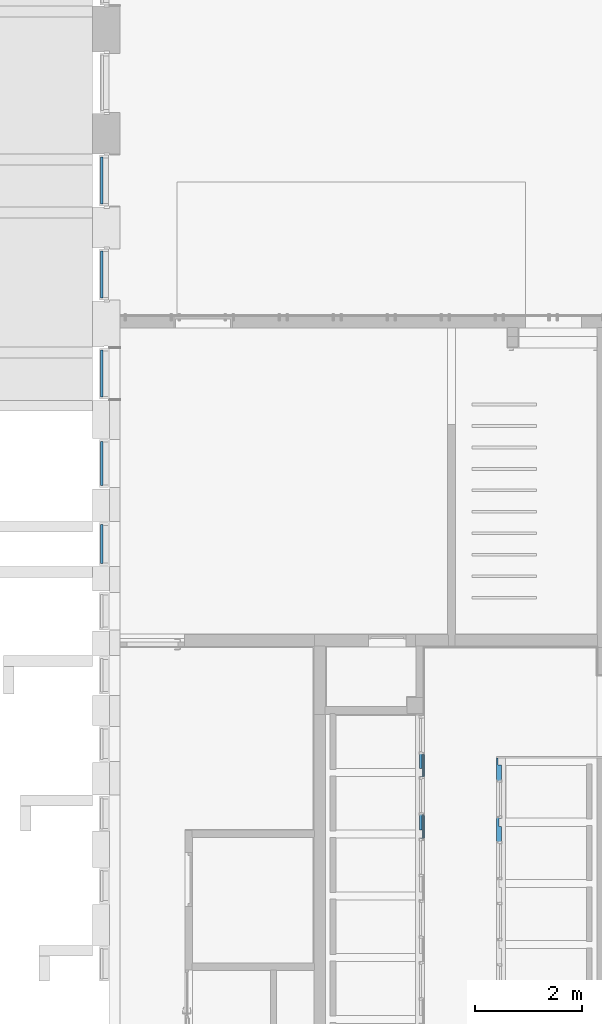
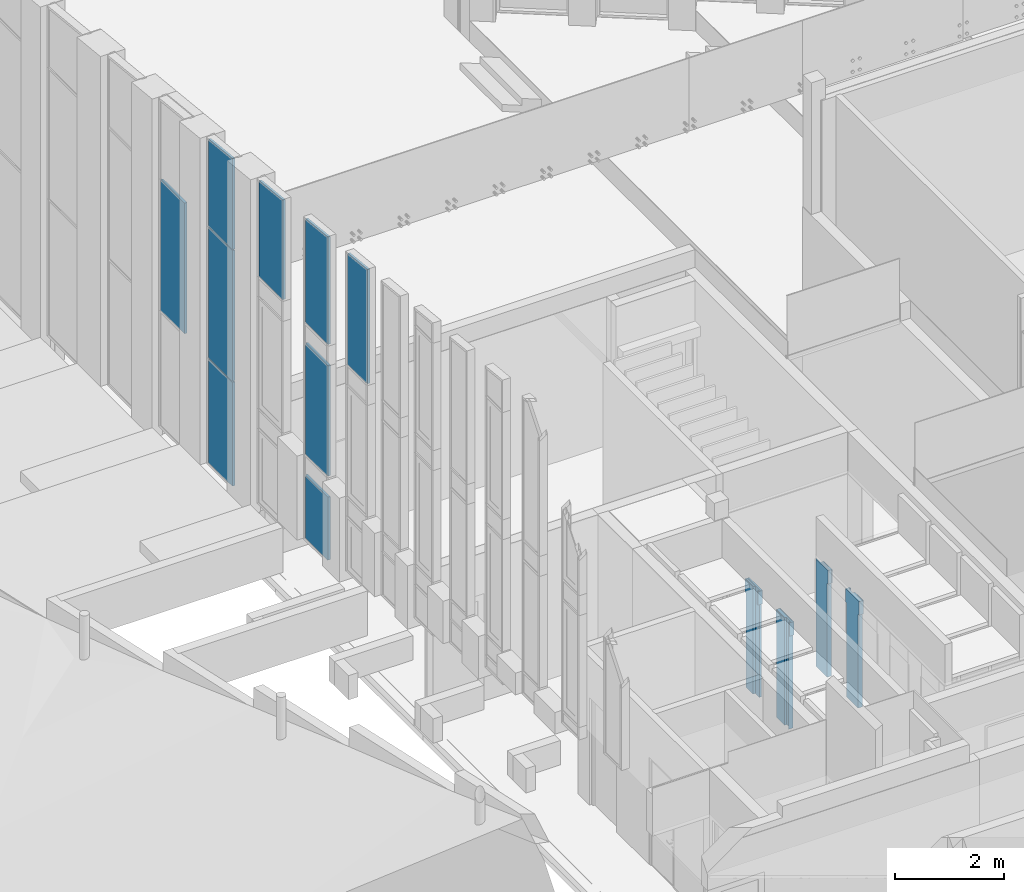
# One storey, part 96 of 246: 13 plates, 7 elements without a shape of their own.
"""IFC2X3 building model written with IfcOpenShell, lengths in millimetres."""

from ifc_helpers import new_model, entity, si_unit, converted_unit, derived_unit, money_unit, direction, frame, origin_with_axes, place, context, subcontext, project, spatial, faceted_brep, material, material_list, type_object, element, aggregate, save


model = new_model("IFC2X3")

# Units and contexts
model_context = context("Model", 3, precision=0.01, world=origin_with_axes(), true_north=direction((0.0, 1.0)))
body_context = subcontext(model_context, "Body", "Model", "MODEL_VIEW")
ifc_project = project(units=[si_unit("LENGTHUNIT", "METRE", prefix="MILLI"), si_unit("AREAUNIT", "SQUARE_METRE"), si_unit("VOLUMEUNIT", "CUBIC_METRE"), converted_unit("PLANEANGLEUNIT", "DEGREE", entity("IfcPlaneAngleMeasure", 0.0174532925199), si_unit("PLANEANGLEUNIT", "RADIAN"), dimensions=[0, 0, 0, 0, 0, 0, 0]), si_unit("SOLIDANGLEUNIT", "STERADIAN"), money_unit("EUR"), converted_unit("TIMEUNIT", "Year", entity("IfcTimeMeasure", 31556926.0), si_unit("TIMEUNIT", "SECOND"), dimensions=[0, 0, 1, 0, 0, 0, 0]), si_unit("MASSUNIT", "GRAM", prefix="KILO"), si_unit("THERMODYNAMICTEMPERATUREUNIT", "DEGREE_CELSIUS"), si_unit("LUMINOUSINTENSITYUNIT", "LUMEN"), si_unit("ENERGYUNIT", "JOULE", prefix="MEGA"), derived_unit("THERMALCONDUCTANCEUNIT", [(si_unit("POWERUNIT", "WATT"), 1), (si_unit("LENGTHUNIT", "METRE"), -1), (si_unit("THERMODYNAMICTEMPERATUREUNIT", "KELVIN"), -1)]), derived_unit("SPECIFICHEATCAPACITYUNIT", [(si_unit("ENERGYUNIT", "JOULE"), 1), (si_unit("MASSUNIT", "GRAM", prefix="KILO"), -1), (si_unit("THERMODYNAMICTEMPERATUREUNIT", "KELVIN"), -1)]), derived_unit("MASSDENSITYUNIT", [(si_unit("MASSUNIT", "GRAM", prefix="KILO"), 1), (si_unit("VOLUMEUNIT", "CUBIC_METRE"), -1)])], contexts=[model_context])

# Site, building, storey
site_placement = place(None, origin_with_axes())
site = spatial("IfcSite", under=ifc_project, at=site_placement, Name="L.Koidula tn 11b", CompositionType="ELEMENT")
building_placement = place(site_placement, origin_with_axes())
building = spatial("IfcBuilding", under=site, at=building_placement, Name="Rakvere Riigigümnaasium", CompositionType="ELEMENT")
storey_placement = place(building_placement, origin_with_axes())
storey = spatial("IfcBuildingStorey", under=building, at=storey_placement, Name="1.korrus 0,00", CompositionType="ELEMENT", Elevation=0.0)

# Curtain wall, plate
curtain_wall_type = type_object("IfcCurtainWallType", Name="Curtain Wall Type", PredefinedType="NOTDEFINED")
curtain_wall_1_placement = place(storey_placement, frame((35156.0871538, 34035.34119, 1144.99990202), z_axis=(0.0, 0.0, 1.0), x_axis=(1.0, 0.0, 0.0)))
curtain_wall_1 = element("IfcCurtainWall", 1, at=curtain_wall_1_placement, inside=storey, type_object=curtain_wall_type, Name="KLF-03-05")
ifc_material_1 = material(Name="Klaaspakett 3x")
plate_type_1 = type_object("IfcPlateType", Name="Distinct Panel 876 x 2921 x 54", PredefinedType="CURTAIN_PANEL")
plate_1_placement = place(curtain_wall_1_placement, frame((0.0, 0.0, 4072.50013945), z_axis=(0.0, 0.0, 1.0), x_axis=(0.0, 1.0, 0.0)))
plate_1 = element("IfcPlate", 2, at=plate_1_placement, type_object=plate_type_1, material=ifc_material_1, Name="KLF-03-05-Klaasid", ObjectType="CURTAIN_PANEL", context=body_context, shape_type="Brep", body=[
    faceted_brep([(-438.000075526, -27.0, 1460.50001848), (438.00002379, -27.0, 1460.50001848), (438.00002379, 27.0, 1460.50001848), (-438.000075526, 27.0, 1460.50001848), (-438.000031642, -27.0, -1460.50001848), (438.00002379, -27.0, -1460.50001848), (438.00002379, 27.0, -1460.50001848), (-438.000031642, 27.0, -1460.50001848)], [[[0, 1, 2, 3]], [[0, 4, 5, 1]], [[1, 5, 6, 2]], [[3, 2, 6, 7]], [[4, 0, 3, 7]], [[5, 4, 7, 6]]]),
])
aggregate(curtain_wall_1, [plate_1])

# Curtain wall, plates
curtain_wall_2_placement = place(storey_placement, frame((35156.0871538, 32285.4558039, 1374.99993164), z_axis=(0.0, 0.0, 1.0), x_axis=(1.0, 0.0, 0.0)))
curtain_wall_2 = element("IfcCurtainWall", 3, at=curtain_wall_2_placement, inside=storey, type_object=curtain_wall_type, Name="KLF-03-06")
plate_2_placement = place(curtain_wall_2_placement, frame((0.0, -4.72708947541e-05, 3842.50014685), z_axis=(0.0, 0.0, 1.0), x_axis=(0.0, 1.0, 0.0)))
plate_2 = element("IfcPlate", 4, at=plate_2_placement, type_object=plate_type_1, material=ifc_material_1, Name="KLF-03-06-Klaasid", ObjectType="CURTAIN_PANEL", context=body_context, shape_type="Brep", body=[
    faceted_brep([(-437.999813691, -27.0, 1460.50001848), (437.999846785, -27.0, 1460.50001848), (437.999846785, 27.0, 1460.50001848), (-437.999813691, 27.0, 1460.50001848), (-437.999945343, -27.0, -1460.50001848), (437.999846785, -27.0, -1460.50001848), (437.999846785, 27.0, -1460.50001848), (-437.999945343, 27.0, -1460.50001848)], [[[0, 1, 2, 3]], [[0, 4, 5, 1]], [[1, 5, 6, 2]], [[3, 2, 6, 7]], [[4, 0, 3, 7]], [[5, 4, 7, 6]]]),
])
plate_type_2 = type_object("IfcPlateType", Name="Distinct Panel 876 x 1940 x 54", PredefinedType="CURTAIN_PANEL")
plate_3_placement = place(curtain_wall_2_placement, frame((0.0, 0.0, 6332.86607287), z_axis=(0.0, 0.0, 1.0), x_axis=(0.0, 1.0, 0.0)))
plate_3 = element("IfcPlate", 5, at=plate_3_placement, type_object=plate_type_2, material=ifc_material_1, Name="KLF-03-06-Klaasid", ObjectType="CURTAIN_PANEL", context=body_context, shape_type="Brep", body=[
    faceted_brep([(-437.999841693, -27.0, 1026.69774589), (437.999877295, -27.0, 934.626476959), (437.999877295, 27.0, 934.626476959), (-437.999841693, 27.0, 1026.69774589), (-437.999841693, -27.0, -1005.86593072), (437.999815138, -27.0, -1005.86593072), (437.999815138, 27.0, -1005.86593072), (-437.999841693, 27.0, -1005.86593072)], [[[0, 1, 2, 3]], [[0, 4, 5, 1]], [[1, 5, 6, 2]], [[3, 2, 6, 7]], [[4, 0, 3, 7]], [[5, 4, 7, 6]]]),
])
plate_type_3 = type_object("IfcPlateType", Name="Distinct Panel 876 x 2321 x 54", PredefinedType="CURTAIN_PANEL")
plate_4_placement = place(curtain_wall_2_placement, frame((0.0, -0.00010516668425, 1185.00007343), z_axis=(0.0, 0.0, 1.0), x_axis=(0.0, 1.0, 0.0)))
plate_4 = element("IfcPlate", 6, at=plate_4_placement, type_object=plate_type_3, material=ifc_material_1, Name="KLF-03-06-Klaasid", ObjectType="CURTAIN_PANEL", context=body_context, shape_type="Brep", body=[
    faceted_brep([(-437.999861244, -27.0, 1173.00008654), (437.999923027, -27.0, 1173.00008654), (437.999923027, 27.0, 1173.00008654), (-437.999861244, 27.0, 1173.00008654), (-437.999861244, -27.0, -1148.0000756), (437.999817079, -27.0, -1148.0000756), (437.999817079, 27.0, -1148.0000756), (-437.999861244, 27.0, -1148.0000756)], [[[0, 1, 2, 3]], [[0, 4, 5, 1]], [[1, 5, 6, 2]], [[3, 2, 6, 7]], [[4, 0, 3, 7]], [[5, 4, 7, 6]]]),
])
aggregate(curtain_wall_2, [plate_3, plate_2, plate_4])

# Curtain wall, plate
curtain_wall_3_placement = place(storey_placement, frame((35156.0871538, 30435.4555151, 1604.94683277), z_axis=(0.0, 0.0, 1.0), x_axis=(1.0, 0.0, 0.0)))
curtain_wall_3 = element("IfcCurtainWall", 7, at=curtain_wall_3_placement, inside=storey, type_object=curtain_wall_type, Name="KLF-04-01")
plate_type_4 = type_object("IfcPlateType", Name="Distinct Panel 876 x 2135 x 54", PredefinedType="CURTAIN_PANEL")
plate_5_placement = place(curtain_wall_3_placement, frame((0.0, -1.21958407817e-05, 6200.11400586), z_axis=(0.0, 0.0, 1.0), x_axis=(0.0, 1.0, 0.0)))
plate_5 = element("IfcPlate", 8, at=plate_5_placement, type_object=plate_type_4, material=ifc_material_1, Name="KLF-04-01-Klaasid", ObjectType="CURTAIN_PANEL", context=body_context, shape_type="Brep", body=[
    faceted_brep([(-438.000079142, -27.0, 1123.94575936), (438.000065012, -27.0, 1031.87454483), (438.000065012, 27.0, 1031.87454483), (-438.000079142, 27.0, 1123.94575936), (-438.000079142, -27.0, -1103.11392284), (438.000065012, -27.0, -1103.11392284), (438.000065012, 27.0, -1103.11392284), (-438.000079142, 27.0, -1103.11392284)], [[[0, 1, 2, 3]], [[0, 4, 5, 1]], [[1, 5, 6, 2]], [[3, 2, 6, 7]], [[4, 0, 3, 7]], [[5, 4, 7, 6]]]),
])
aggregate(curtain_wall_3, [plate_5])

# Curtain wall, plates
curtain_wall_4_placement = place(storey_placement, frame((35156.0871538, 28760.4555979, 1840.0), z_axis=(0.0, 0.0, 1.0), x_axis=(1.0, 0.0, 0.0)))
curtain_wall_4 = element("IfcCurtainWall", 9, at=curtain_wall_4_placement, inside=storey, type_object=curtain_wall_type, Name="KLF-04-02")
plate_type_5 = type_object("IfcPlateType", Name="Distinct Panel 826 x 2476 x 54", PredefinedType="CURTAIN_PANEL")
plate_6_placement = place(curtain_wall_4_placement, frame((0.0, -1.48800332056e-05, 3155.00005204), z_axis=(0.0, 0.0, 1.0), x_axis=(0.0, 1.0, 0.0)))
plate_6 = element("IfcPlate", 10, at=plate_6_placement, type_object=plate_type_5, material=ifc_material_1, Name="KLF-04-02-Klaasid", ObjectType="CURTAIN_PANEL", context=body_context, shape_type="Brep", body=[
    faceted_brep([(-412.999954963, -27.0, 1238.00000894), (412.999951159, -27.0, 1238.00000894), (412.999951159, 27.0, 1238.00000894), (-412.999954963, 27.0, 1238.00000894), (-412.999954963, -27.0, -1238.00000894), (412.999951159, -27.0, -1238.00000894), (412.999951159, 27.0, -1238.00000894), (-412.999954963, 27.0, -1238.00000894)], [[[0, 1, 2, 3]], [[0, 4, 5, 1]], [[1, 5, 6, 2]], [[3, 2, 6, 7]], [[4, 0, 3, 7]], [[5, 4, 7, 6]]]),
])
plate_type_6 = type_object("IfcPlateType", Name="Distinct Panel 826 x 1411 x 54", PredefinedType="CURTAIN_PANEL")
plate_7_placement = place(curtain_wall_4_placement, frame((0.0, -6.91300634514e-05, 730.00002602), z_axis=(0.0, 0.0, 1.0), x_axis=(0.0, 1.0, 0.0)))
plate_7 = element("IfcPlate", 11, at=plate_7_placement, type_object=plate_type_6, material=ifc_material_1, Name="KLF-04-02-Klaasid", ObjectType="CURTAIN_PANEL", context=body_context, shape_type="Brep", body=[
    faceted_brep([(-412.999993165, -27.0, 718.000029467), (413.000005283, -27.0, 718.000029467), (413.000005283, 27.0, 718.000029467), (-412.999993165, 27.0, 718.000029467), (-412.999993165, -27.0, -693.000034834), (413.000005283, -27.0, -693.000034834), (413.000005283, 27.0, -693.000034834), (-412.999993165, 27.0, -693.000034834)], [[[0, 1, 2, 3]], [[0, 4, 5, 1]], [[1, 5, 6, 2]], [[3, 2, 6, 7]], [[4, 0, 3, 7]], [[5, 4, 7, 6]]]),
])
plate_type_7 = type_object("IfcPlateType", Name="Distinct Panel 826 x 2314 x 54", PredefinedType="CURTAIN_PANEL")
plate_8_placement = place(curtain_wall_4_placement, frame((0.0, 0.000102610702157, 6053.11220973), z_axis=(0.0, 0.0, 1.0), x_axis=(0.0, 1.0, 0.0)))
plate_8 = element("IfcPlate", 12, at=plate_8_placement, type_object=plate_type_7, material=ifc_material_1, Name="KLF-04-02-Klaasid", ObjectType="CURTAIN_PANEL", context=body_context, shape_type="Brep", body=[
    faceted_brep([(-412.999665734, -27.0, 1209.31634915), (412.99983666, -27.0, 1122.50032517), (412.99983666, 27.0, 1122.50032517), (-412.999665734, 27.0, 1209.31634915), (-412.999994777, -27.0, -1191.11217342), (412.99983666, -27.0, -1191.11217342), (412.99983666, 27.0, -1191.11217342), (-412.999994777, 27.0, -1191.11217342)], [[[0, 1, 2, 3]], [[0, 4, 5, 1]], [[1, 5, 6, 2]], [[3, 2, 6, 7]], [[4, 0, 3, 7]], [[5, 4, 7, 6]]]),
])
aggregate(curtain_wall_4, [plate_6, plate_7, plate_8])

# Curtain wall, plate
curtain_wall_5_placement = place(storey_placement, frame((35156.0871538, 27260.4554897, 2070.0), z_axis=(0.0, 0.0, 1.0), x_axis=(1.0, 0.0, 0.0)))
curtain_wall_5 = element("IfcCurtainWall", 13, at=curtain_wall_5_placement, inside=storey, type_object=curtain_wall_type, Name="KLF-04-03")
plate_type_8 = type_object("IfcPlateType", Name="Distinct Panel 726 x 2477 x 54", PredefinedType="CURTAIN_PANEL")
plate_9_placement = place(curtain_wall_5_placement, frame((0.0, 4.11437994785e-06, 5901.94037312), z_axis=(0.0, 0.0, 1.0), x_axis=(0.0, 1.0, 0.0)))
plate_9 = element("IfcPlate", 14, at=plate_9_placement, type_object=plate_type_8, material=ifc_material_1, Name="KLF-04-03-Klaasid", ObjectType="CURTAIN_PANEL", context=body_context, shape_type="Brep", body=[
    faceted_brep([(-363.00000862, -27.0, 1282.88938991), (363.000032, -27.0, 1206.58365993), (363.000032, 27.0, 1206.58365993), (-363.00000862, 27.0, 1282.88938991), (-363.00000862, -27.0, -1269.94032137), (362.999993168, -27.0, -1269.94032137), (362.999993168, 27.0, -1269.94032137), (-363.00000862, 27.0, -1269.94032137)], [[[0, 1, 2, 3]], [[0, 4, 5, 1]], [[1, 5, 6, 2]], [[3, 2, 6, 7]], [[4, 0, 3, 7]], [[5, 4, 7, 6]]]),
])
aggregate(curtain_wall_5, [plate_9])

# Curtain wall, plates
curtain_wall_6_placement = place(storey_placement, frame((41170.0073165, 24038.4555472, 1.56205997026e-05), z_axis=(0.0, 0.0, 1.0), x_axis=(1.0, 0.0, 0.0)))
curtain_wall_6 = element("IfcCurtainWall", 15, at=curtain_wall_6_placement, inside=storey, type_object=curtain_wall_type, Name="SUS-01")
ifc_material_2 = material(Name="Klaasvill")
ifc_material_3 = material(Name="MDF")
ifc_material_4 = material(Name="Kipsplaat")
ifc_material_list = material_list([ifc_material_2, ifc_material_3, ifc_material_4])
plate_type_9 = type_object("IfcPlateType", Name="SA-Siseuksesüsteem-Paneel 480 x 300 x 0", PredefinedType="CURTAIN_PANEL")
plate_10_placement = place(curtain_wall_6_placement, frame((0.0, -907.000034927, 1499.99994772), z_axis=(0.0, 0.0, 1.0), x_axis=(0.0, 1.0, 0.0)))
plate_10 = element("IfcPlate", 16, at=plate_10_placement, type_object=plate_type_9, material=ifc_material_list, Name="Panel-SA-Siseuks-016", ObjectType="CURTAIN_PANEL", context=body_context, shape_type="Brep", body=[
    faceted_brep([(-71.0164757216, 45.000028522, 900.000036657), (-191.016475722, 45.000028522, 900.000036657), (-206.016475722, 45.000028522, 900.000036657), (-206.016475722, 79.0, 900.000036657), (-239.999997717, 79.0, 900.000025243), (-239.999997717, 42.0, 900.000025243), (240.0, 42.0, 900.000025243), (240.0, 79.0, 900.000025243), (-56.0164757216, 79.0, 900.000036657), (-56.0164757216, 45.000028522, 900.000036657), (-71.0164757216, 45.000028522, -1499.99996334), (-191.016475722, 45.000028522, -1499.99996334), (-205.999997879, 45.000028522, 600.000026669), (-206.016475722, 45.000028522, 600.000026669), (-205.999997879, 45.000028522, -1499.99996334), (-206.016475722, 79.0, 600.000026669), (-239.999997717, 79.0, 600.000026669), (-239.999997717, 42.0, 600.000026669), (206.000000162, 42.0, 600.000026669), (240.0, 42.0, 600.000026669), (-205.999997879, 42.0, 600.000026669), (-205.999997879, 42.0, -1499.99996334), (206.000000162, 42.0, -1499.99996334), (240.0, 79.0, 600.000026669), (206.000000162, 79.0, 600.000026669), (206.000000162, 79.0, -1499.99996334), (-56.0164757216, 79.0, -1499.99996334), (-56.0164757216, 45.000028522, -1499.99996334)], [[[0, 1, 2, 3, 4, 5, 6, 7, 8, 9]], [[10, 11, 1, 0]], [[12, 13, 2, 1, 11, 14]], [[13, 15, 3, 2]], [[16, 4, 3, 15]], [[5, 4, 16, 17]], [[18, 19, 6, 5, 17, 20, 21, 22]], [[19, 23, 7, 6]], [[24, 25, 26, 8, 7, 23]], [[26, 27, 9, 8]], [[27, 10, 0, 9]], [[11, 10, 27, 26, 25, 22, 21, 14]], [[16, 15, 13, 12, 20, 17]], [[21, 20, 12, 14]], [[18, 24, 23, 19]], [[22, 25, 24, 18]]]),
    faceted_brep([(240.0, 92.0, 900.000025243), (-56.0164757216, 92.0, 900.000036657), (-56.0164757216, 84.0, 900.000036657), (240.0, 84.0, 900.000025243), (206.000000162, 92.0, -1499.99996334), (-56.0164757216, 92.0, -1499.99996334), (240.0, 92.0, 600.000026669), (206.000000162, 92.0, 600.000026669), (-56.0164757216, 84.0, -1499.99996334), (206.000000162, 84.0, -1499.99996334), (206.000000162, 84.0, 600.000026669), (240.0, 84.0, 600.000026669)], [[[0, 1, 2, 3]], [[4, 5, 1, 0, 6, 7]], [[5, 8, 2, 1]], [[3, 2, 8, 9, 10, 11]], [[6, 0, 3, 11]], [[9, 8, 5, 4]], [[7, 6, 11, 10]], [[4, 7, 10, 9]]]),
    faceted_brep([(-239.999997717, 84.0, 600.000026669), (-206.016475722, 84.0, 600.000026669), (-206.016475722, 84.0, 900.000036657), (-239.999997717, 84.0, 900.000025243), (-239.999997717, 92.0, 600.000026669), (-206.016475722, 92.0, 600.000026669), (-206.016475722, 92.0, 900.000036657), (-239.999997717, 92.0, 900.000025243)], [[[0, 1, 2, 3]], [[4, 5, 1, 0]], [[5, 6, 2, 1]], [[3, 2, 6, 7]], [[7, 4, 0, 3]], [[7, 6, 5, 4]]]),
    faceted_brep([(-239.999997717, 0.0, 900.000025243), (240.0, 0.0, 900.000025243), (240.0, 10.0, 900.000025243), (-239.999997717, 10.0, 900.000025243), (-239.999997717, 0.0, 600.000026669), (-205.999997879, 0.0, 600.000026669), (-205.999997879, 0.0, -1499.99996334), (206.000000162, 0.0, -1499.99996334), (206.000000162, 0.0, 600.000026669), (240.0, 0.0, 600.000026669), (240.0, 10.0, 600.000026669), (206.000000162, 10.0, 600.000026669), (206.000000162, 10.0, -1499.99996334), (-205.999997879, 10.0, -1499.99996334), (-205.999997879, 10.0, 600.000026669), (-239.999997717, 10.0, 600.000026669)], [[[0, 1, 2, 3]], [[0, 4, 5, 6, 7, 8, 9, 1]], [[1, 9, 10, 2]], [[3, 2, 10, 11, 12, 13, 14, 15]], [[4, 0, 3, 15]], [[5, 4, 15, 14]], [[6, 5, 14, 13]], [[7, 6, 13, 12]], [[8, 7, 12, 11]], [[9, 8, 11, 10]]]),
    faceted_brep([(-239.999997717, 12.0, 900.000025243), (240.0, 12.0, 900.000025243), (240.0, 25.0, 900.000025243), (-239.999997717, 25.0, 900.000025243), (-239.999997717, 12.0, 600.000026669), (-205.999997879, 12.0, 600.000026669), (-205.999997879, 12.0, -1499.99996334), (206.000000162, 12.0, -1499.99996334), (206.000000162, 12.0, 600.000026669), (240.0, 12.0, 600.000026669), (240.0, 25.0, 600.000026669), (206.000000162, 25.0, 600.000026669), (206.000000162, 25.0, -1499.99996334), (-205.999997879, 25.0, -1499.99996334), (-205.999997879, 25.0, 600.000026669), (-239.999997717, 25.0, 600.000026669)], [[[0, 1, 2, 3]], [[0, 4, 5, 6, 7, 8, 9, 1]], [[1, 9, 10, 2]], [[3, 2, 10, 11, 12, 13, 14, 15]], [[4, 0, 3, 15]], [[5, 4, 15, 14]], [[6, 5, 14, 13]], [[7, 6, 13, 12]], [[8, 7, 12, 11]], [[9, 8, 11, 10]]]),
    faceted_brep([(-239.999997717, 25.0, 900.000025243), (240.0, 25.0, 900.000025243), (240.0, 38.0, 900.000025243), (-239.999997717, 38.0, 900.000025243), (-239.999997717, 25.0, 600.000026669), (-205.999997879, 25.0, 600.000026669), (-205.999997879, 25.0, -1499.99996334), (206.000000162, 25.0, -1499.99996334), (206.000000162, 25.0, 600.000026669), (240.0, 25.0, 600.000026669), (240.0, 38.0, 600.000026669), (206.000000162, 38.0, 600.000026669), (206.000000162, 38.0, -1499.99996334), (-205.999997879, 38.0, -1499.99996334), (-205.999997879, 38.0, 600.000026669), (-239.999997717, 38.0, 600.000026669)], [[[0, 1, 2, 3]], [[0, 4, 5, 6, 7, 8, 9, 1]], [[1, 9, 10, 2]], [[3, 2, 10, 11, 12, 13, 14, 15]], [[4, 0, 3, 15]], [[5, 4, 15, 14]], [[6, 5, 14, 13]], [[7, 6, 13, 12]], [[8, 7, 12, 11]], [[9, 8, 11, 10]]]),
])
plate_type_10 = type_object("IfcPlateType", Name="SA-Siseuksesüsteem-Paneel 500 x 300 x 0", PredefinedType="CURTAIN_PANEL")
plate_11_placement = place(curtain_wall_6_placement, frame((0.0, -2047.00003493, 1499.99994772), z_axis=(0.0, 0.0, 1.0), x_axis=(0.0, 1.0, 0.0)))
plate_11 = element("IfcPlate", 17, at=plate_11_placement, type_object=plate_type_10, material=ifc_material_list, Name="Panel-SA-Siseuks-017", ObjectType="CURTAIN_PANEL", context=body_context, shape_type="Brep", body=[
    faceted_brep([(-80.9366400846, 45.000028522, 900.000036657), (-200.936640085, 45.000028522, 900.000036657), (-215.936640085, 45.000028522, 900.000036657), (-215.936640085, 79.0, 900.000036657), (-249.999997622, 79.0, 900.000025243), (-249.999997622, 42.0, 900.000025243), (250.0, 42.0, 900.000025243), (250.0, 79.0, 900.000025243), (-65.9366400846, 79.0, 900.000036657), (-65.9366400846, 45.000028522, 900.000036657), (-80.9366400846, 45.000028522, -1499.99996334), (-200.936640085, 45.000028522, -1499.99996334), (-215.936640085, 45.000028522, -1499.99996334), (-215.936640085, 79.0, -1499.99996334), (-249.999997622, 79.0, 600.000026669), (-215.999997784, 79.0, -1499.99996334), (-215.999997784, 79.0, 600.000026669), (-249.999997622, 42.0, 600.000026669), (216.000000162, 42.0, 600.000026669), (250.0, 42.0, 600.000026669), (-215.999997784, 42.0, 600.000026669), (-215.999997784, 42.0, -1499.99996334), (216.000000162, 42.0, -1499.99996334), (250.0, 79.0, 600.000026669), (216.000000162, 79.0, 600.000026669), (216.000000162, 79.0, -1499.99996334), (-65.9366400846, 79.0, -1499.99996334), (-65.9366400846, 45.000028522, -1499.99996334)], [[[0, 1, 2, 3, 4, 5, 6, 7, 8, 9]], [[10, 11, 1, 0]], [[11, 12, 2, 1]], [[12, 13, 3, 2]], [[14, 4, 3, 13, 15, 16]], [[5, 4, 14, 17]], [[18, 19, 6, 5, 17, 20, 21, 22]], [[19, 23, 7, 6]], [[24, 25, 26, 8, 7, 23]], [[26, 27, 9, 8]], [[27, 10, 0, 9]], [[11, 10, 27, 26, 25, 22, 21, 15, 13, 12]], [[20, 16, 15, 21]], [[17, 14, 16, 20]], [[18, 24, 23, 19]], [[22, 25, 24, 18]]]),
    faceted_brep([(250.0, 92.0, 900.000025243), (-65.9366400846, 92.0, 900.000036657), (-65.9366400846, 84.0, 900.000036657), (250.0, 84.0, 900.000025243), (216.000000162, 92.0, -1499.99996334), (-65.9366400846, 92.0, -1499.99996334), (250.0, 92.0, 600.000026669), (216.000000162, 92.0, 600.000026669), (-65.9366400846, 84.0, -1499.99996334), (216.000000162, 84.0, -1499.99996334), (216.000000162, 84.0, 600.000026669), (250.0, 84.0, 600.000026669)], [[[0, 1, 2, 3]], [[4, 5, 1, 0, 6, 7]], [[5, 8, 2, 1]], [[3, 2, 8, 9, 10, 11]], [[6, 0, 3, 11]], [[9, 8, 5, 4]], [[7, 6, 11, 10]], [[4, 7, 10, 9]]]),
    faceted_brep([(-215.999997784, 84.0, -1499.99996334), (-215.936640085, 84.0, -1499.99996334), (-215.936640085, 84.0, 900.000036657), (-249.999997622, 84.0, 900.000025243), (-249.999997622, 84.0, 600.000026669), (-215.999997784, 84.0, 600.000026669), (-215.999997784, 92.0, -1499.99996334), (-215.936640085, 92.0, -1499.99996334), (-215.936640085, 92.0, 900.000036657), (-249.999997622, 92.0, 900.000025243), (-249.999997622, 92.0, 600.000026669), (-215.999997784, 92.0, 600.000026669)], [[[0, 1, 2, 3, 4, 5]], [[6, 7, 1, 0]], [[7, 8, 2, 1]], [[3, 2, 8, 9]], [[9, 10, 4, 3]], [[10, 11, 5, 4]], [[11, 6, 0, 5]], [[9, 8, 7, 6, 11, 10]]]),
    faceted_brep([(-249.999997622, 0.0, 900.000025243), (250.0, 0.0, 900.000025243), (250.0, 10.0, 900.000025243), (-249.999997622, 10.0, 900.000025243), (-249.999997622, 0.0, 600.000026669), (-215.999997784, 0.0, 600.000026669), (-215.999997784, 0.0, -1499.99996334), (216.000000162, 0.0, -1499.99996334), (216.000000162, 0.0, 600.000026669), (250.0, 0.0, 600.000026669), (250.0, 10.0, 600.000026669), (216.000000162, 10.0, 600.000026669), (216.000000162, 10.0, -1499.99996334), (-215.999997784, 10.0, -1499.99996334), (-215.999997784, 10.0, 600.000026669), (-249.999997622, 10.0, 600.000026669)], [[[0, 1, 2, 3]], [[0, 4, 5, 6, 7, 8, 9, 1]], [[1, 9, 10, 2]], [[3, 2, 10, 11, 12, 13, 14, 15]], [[4, 0, 3, 15]], [[5, 4, 15, 14]], [[6, 5, 14, 13]], [[7, 6, 13, 12]], [[8, 7, 12, 11]], [[9, 8, 11, 10]]]),
    faceted_brep([(-249.999997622, 12.0, 900.000025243), (250.0, 12.0, 900.000025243), (250.0, 25.0, 900.000025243), (-249.999997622, 25.0, 900.000025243), (-249.999997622, 12.0, 600.000026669), (-215.999997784, 12.0, 600.000026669), (-215.999997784, 12.0, -1499.99996334), (216.000000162, 12.0, -1499.99996334), (216.000000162, 12.0, 600.000026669), (250.0, 12.0, 600.000026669), (250.0, 25.0, 600.000026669), (216.000000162, 25.0, 600.000026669), (216.000000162, 25.0, -1499.99996334), (-215.999997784, 25.0, -1499.99996334), (-215.999997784, 25.0, 600.000026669), (-249.999997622, 25.0, 600.000026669)], [[[0, 1, 2, 3]], [[0, 4, 5, 6, 7, 8, 9, 1]], [[1, 9, 10, 2]], [[3, 2, 10, 11, 12, 13, 14, 15]], [[4, 0, 3, 15]], [[5, 4, 15, 14]], [[6, 5, 14, 13]], [[7, 6, 13, 12]], [[8, 7, 12, 11]], [[9, 8, 11, 10]]]),
    faceted_brep([(-249.999997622, 25.0, 900.000025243), (250.0, 25.0, 900.000025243), (250.0, 38.0, 900.000025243), (-249.999997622, 38.0, 900.000025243), (-249.999997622, 25.0, 600.000026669), (-215.999997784, 25.0, 600.000026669), (-215.999997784, 25.0, -1499.99996334), (216.000000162, 25.0, -1499.99996334), (216.000000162, 25.0, 600.000026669), (250.0, 25.0, 600.000026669), (250.0, 38.0, 600.000026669), (216.000000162, 38.0, 600.000026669), (216.000000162, 38.0, -1499.99996334), (-215.999997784, 38.0, -1499.99996334), (-215.999997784, 38.0, 600.000026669), (-249.999997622, 38.0, 600.000026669)], [[[0, 1, 2, 3]], [[0, 4, 5, 6, 7, 8, 9, 1]], [[1, 9, 10, 2]], [[3, 2, 10, 11, 12, 13, 14, 15]], [[4, 0, 3, 15]], [[5, 4, 15, 14]], [[6, 5, 14, 13]], [[7, 6, 13, 12]], [[8, 7, 12, 11]], [[9, 8, 11, 10]]]),
])
aggregate(curtain_wall_6, [plate_10, plate_11])

curtain_wall_7_placement = place(storey_placement, frame((42519.9999626, 19079.4634323, 0.0), z_axis=(0.0, 0.0, 1.0), x_axis=(1.0, 0.0, 0.0)))
curtain_wall_7 = element("IfcCurtainWall", 18, at=curtain_wall_7_placement, inside=storey, type_object=curtain_wall_type, Name="SUS-02")
plate_type_11 = type_object("IfcPlateType", Name="SA-Siseuksesüsteem-Paneel 490 x 300 x 0", PredefinedType="CURTAIN_PANEL")
plate_12_placement = place(curtain_wall_7_placement, frame((0.0, 2855.00791999, 1499.99999239), z_axis=(0.0, 0.0, 1.0), x_axis=(0.0, -1.0, 0.0)))
plate_12 = element("IfcPlate", 19, at=plate_12_placement, type_object=plate_type_11, material=ifc_material_list, Name="Panel-SA-Siseuks-019", ObjectType="CURTAIN_PANEL", context=body_context, shape_type="Brep", body=[
    faceted_brep([(211.000000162, 79.0, -1499.99999239), (-60.9841600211, 79.0, -1499.99999239), (-60.9841600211, 79.0, 900.000007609), (245.0, 79.0, 899.999996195), (245.0, 79.0, 599.999997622), (211.000000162, 79.0, 599.999997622), (-75.9841600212, 44.9999791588, -1499.99999239), (-60.9841600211, 44.9999791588, -1499.99999239), (211.000000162, 42.0, -1499.99999239), (-210.999997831, 42.0, -1499.99999239), (-210.999997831, 79.0, -1499.99999239), (-210.984160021, 79.0, -1499.99999239), (-210.984160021, 45.0, -1499.99999239), (-195.984160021, 44.9999791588, -1499.99999239), (-60.9841600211, 44.9999791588, 900.000007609), (-75.9841600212, 44.9999791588, 900.000007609), (-195.984160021, 44.9999791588, 900.000007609), (-210.984160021, 45.0, 899.999996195), (-210.984160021, 79.0, 899.999996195), (-244.99999767, 79.0, 899.999996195), (-244.99999767, 42.0, 899.999996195), (245.0, 42.0, 899.999996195), (245.0, 42.0, 599.999997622), (211.000000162, 42.0, 599.999997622), (-244.99999767, 42.0, 599.999997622), (-210.999997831, 42.0, 599.999997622), (-210.999997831, 79.0, 599.999997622), (-244.99999767, 79.0, 599.999997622)], [[[0, 1, 2, 3, 4, 5]], [[6, 7, 1, 0, 8, 9, 10, 11, 12, 13]], [[7, 14, 2, 1]], [[15, 16, 17, 18, 19, 20, 21, 3, 2, 14]], [[22, 4, 3, 21]], [[23, 5, 4, 22]], [[8, 0, 5, 23]], [[6, 15, 14, 7]], [[23, 22, 21, 20, 24, 25, 9, 8]], [[25, 26, 10, 9]], [[27, 19, 18, 11, 10, 26]], [[17, 12, 11, 18]], [[17, 16, 13, 12]], [[13, 16, 15, 6]], [[20, 19, 27, 24]], [[24, 27, 26, 25]]]),
    faceted_brep([(211.000000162, 92.0, -1499.99999239), (-60.9841600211, 92.0, -1499.99999239), (-60.9841600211, 92.0, 900.000007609), (245.0, 92.0, 899.999996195), (245.0, 92.0, 599.999997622), (211.000000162, 92.0, 599.999997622), (211.000000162, 84.0, -1499.99999239), (-60.9841600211, 84.0, -1499.99999239), (-60.9841600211, 84.0, 900.000007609), (245.0, 84.0, 899.999996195), (245.0, 84.0, 599.999997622), (211.000000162, 84.0, 599.999997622)], [[[0, 1, 2, 3, 4, 5]], [[6, 7, 1, 0]], [[7, 8, 2, 1]], [[3, 2, 8, 9]], [[10, 4, 3, 9]], [[11, 5, 4, 10]], [[6, 0, 5, 11]], [[9, 8, 7, 6, 11, 10]]]),
    faceted_brep([(-244.99999767, 84.0, 899.999996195), (-210.984160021, 84.0, 899.999996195), (-210.984160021, 92.0, 899.999996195), (-244.99999767, 92.0, 899.999996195), (-210.999997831, 84.0, -1499.99999239), (-210.984160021, 84.0, -1499.99999239), (-244.99999767, 84.0, 599.999997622), (-210.999997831, 84.0, 599.999997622), (-210.984160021, 92.0, -1499.99999239), (-210.999997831, 92.0, -1499.99999239), (-210.999997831, 92.0, 599.999997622), (-244.99999767, 92.0, 599.999997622)], [[[0, 1, 2, 3]], [[4, 5, 1, 0, 6, 7]], [[5, 8, 2, 1]], [[3, 2, 8, 9, 10, 11]], [[3, 11, 6, 0]], [[9, 8, 5, 4]], [[11, 10, 7, 6]], [[10, 9, 4, 7]]]),
    faceted_brep([(-244.99999767, 0.0, 899.999996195), (245.0, 0.0, 899.999996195), (245.0, 10.0, 899.999996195), (-244.99999767, 10.0, 899.999996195), (-244.99999767, 0.0, 599.999997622), (-210.999997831, 0.0, 599.999997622), (-210.999997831, 0.0, -1499.99999239), (211.000000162, 0.0, -1499.99999239), (211.000000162, 0.0, 599.999997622), (245.0, 0.0, 599.999997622), (245.0, 10.0, 599.999997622), (211.000000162, 10.0, 599.999997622), (211.000000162, 10.0, -1499.99999239), (-210.999997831, 10.0, -1499.99999239), (-210.999997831, 10.0, 599.999997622), (-244.99999767, 10.0, 599.999997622)], [[[0, 1, 2, 3]], [[0, 4, 5, 6, 7, 8, 9, 1]], [[1, 9, 10, 2]], [[3, 2, 10, 11, 12, 13, 14, 15]], [[4, 0, 3, 15]], [[5, 4, 15, 14]], [[6, 5, 14, 13]], [[7, 6, 13, 12]], [[8, 7, 12, 11]], [[9, 8, 11, 10]]]),
    faceted_brep([(-244.99999767, 12.0, 899.999996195), (245.0, 12.0, 899.999996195), (245.0, 25.0, 899.999996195), (-244.99999767, 25.0, 899.999996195), (-244.99999767, 12.0, 599.999997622), (-210.999997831, 12.0, 599.999997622), (-210.999997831, 12.0, -1499.99999239), (211.000000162, 12.0, -1499.99999239), (211.000000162, 12.0, 599.999997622), (245.0, 12.0, 599.999997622), (245.0, 25.0, 599.999997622), (211.000000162, 25.0, 599.999997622), (211.000000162, 25.0, -1499.99999239), (-210.999997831, 25.0, -1499.99999239), (-210.999997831, 25.0, 599.999997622), (-244.99999767, 25.0, 599.999997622)], [[[0, 1, 2, 3]], [[0, 4, 5, 6, 7, 8, 9, 1]], [[1, 9, 10, 2]], [[3, 2, 10, 11, 12, 13, 14, 15]], [[4, 0, 3, 15]], [[5, 4, 15, 14]], [[6, 5, 14, 13]], [[7, 6, 13, 12]], [[8, 7, 12, 11]], [[9, 8, 11, 10]]]),
    faceted_brep([(-244.99999767, 25.0, 899.999996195), (245.0, 25.0, 899.999996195), (245.0, 38.0, 899.999996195), (-244.99999767, 38.0, 899.999996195), (-244.99999767, 25.0, 599.999997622), (-210.999997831, 25.0, 599.999997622), (-210.999997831, 25.0, -1499.99999239), (211.000000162, 25.0, -1499.99999239), (211.000000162, 25.0, 599.999997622), (245.0, 25.0, 599.999997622), (245.0, 38.0, 599.999997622), (211.000000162, 38.0, 599.999997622), (211.000000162, 38.0, -1499.99999239), (-210.999997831, 38.0, -1499.99999239), (-210.999997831, 38.0, 599.999997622), (-244.99999767, 38.0, 599.999997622)], [[[0, 1, 2, 3]], [[0, 4, 5, 6, 7, 8, 9, 1]], [[1, 9, 10, 2]], [[3, 2, 10, 11, 12, 13, 14, 15]], [[4, 0, 3, 15]], [[5, 4, 15, 14]], [[6, 5, 14, 13]], [[7, 6, 13, 12]], [[8, 7, 12, 11]], [[9, 8, 11, 10]]]),
])
plate_type_12 = type_object("IfcPlateType", Name="SA-Siseuksesüsteem-Paneel 446 x 300 x 0", PredefinedType="CURTAIN_PANEL")
plate_13_placement = place(curtain_wall_7_placement, frame((0.0, 3973.00791999, 1499.99999239), z_axis=(0.0, 0.0, 1.0), x_axis=(0.0, -1.0, 0.0)))
plate_13 = element("IfcPlate", 20, at=plate_13_placement, type_object=plate_type_12, material=ifc_material_list, Name="Panel-SA-Siseuks-020", ObjectType="CURTAIN_PANEL", context=body_context, shape_type="Brep", body=[
    faceted_brep([(189.000000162, 79.0, -1499.99999239), (-88.0, 79.0, -1499.99999239), (-88.0, 79.0, 900.000007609), (223.0, 79.0, 899.999996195), (223.0, 79.0, 599.999997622), (189.000000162, 79.0, 599.999997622), (189.000000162, 42.0, -1499.99999239), (-88.0, 42.0, -1499.99999239), (-88.0, 42.0, 900.000007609), (223.0, 42.0, 899.999996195), (223.0, 42.0, 599.999997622), (189.000000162, 42.0, 599.999997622)], [[[0, 1, 2, 3, 4, 5]], [[6, 7, 1, 0]], [[7, 8, 2, 1]], [[3, 2, 8, 9]], [[4, 3, 9, 10]], [[5, 4, 10, 11]], [[0, 5, 11, 6]], [[9, 8, 7, 6, 11, 10]]]),
    faceted_brep([(189.000000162, 92.0, -1499.99999239), (-88.0, 92.0, -1499.99999239), (-88.0, 92.0, 900.000007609), (223.0, 92.0, 899.999996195), (223.0, 92.0, 599.999997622), (189.000000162, 92.0, 599.999997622), (189.000000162, 84.0, -1499.99999239), (-88.0, 84.0, -1499.99999239), (-88.0, 84.0, 900.000007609), (223.0, 84.0, 899.999996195), (223.0, 84.0, 599.999997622), (189.000000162, 84.0, 599.999997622)], [[[0, 1, 2, 3, 4, 5]], [[6, 7, 1, 0]], [[7, 8, 2, 1]], [[3, 2, 8, 9]], [[4, 3, 9, 10]], [[5, 4, 10, 11]], [[0, 5, 11, 6]], [[9, 8, 7, 6, 11, 10]]]),
    faceted_brep([(-88.0, 38.0, -1499.99999239), (-88.0, 38.0, 900.000007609), (223.0, 38.0, 899.999996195), (223.0, 38.0, 599.999997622), (189.000000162, 38.0, 599.999997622), (189.000000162, 38.0, -1499.99999239), (-88.0, 25.0, 900.000007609), (-88.0, 25.0, -1499.99999239), (223.0, 25.0, 899.999996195), (223.0, 25.0, 599.999997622), (189.000000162, 25.0, 599.999997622), (189.000000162, 25.0, -1499.99999239)], [[[0, 1, 2, 3, 4, 5]], [[6, 1, 0, 7]], [[1, 6, 8, 2]], [[2, 8, 9, 3]], [[3, 9, 10, 4]], [[4, 10, 11, 5]], [[7, 0, 5, 11]], [[6, 7, 11, 10, 9, 8]]]),
    faceted_brep([(-88.0, 25.0, -1499.99999239), (-88.0, 25.0, 900.000007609), (223.0, 25.0, 899.999996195), (223.0, 25.0, 599.999997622), (189.000000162, 25.0, 599.999997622), (189.000000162, 25.0, -1499.99999239), (-88.0, 19.9999791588, 900.000007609), (-88.0, 19.9999791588, -1499.99999239), (-103.0, 19.9999791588, 900.000007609), (-223.0, 19.9999791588, 900.000007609), (-222.999997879, 12.0, 899.999996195), (223.0, 12.0, 899.999996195), (223.0, 12.0, 599.999997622), (189.000000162, 12.0, 599.999997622), (189.000000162, 12.0, -1499.99999239), (-222.999997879, 12.0, -1499.99999239), (-223.0, 19.9999791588, -1499.99999239), (-103.0, 19.9999791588, -1499.99999239)], [[[0, 1, 2, 3, 4, 5]], [[6, 1, 0, 7]], [[8, 9, 10, 11, 2, 1, 6]], [[2, 11, 12, 3]], [[3, 12, 13, 4]], [[4, 13, 14, 5]], [[7, 0, 5, 14, 15, 16, 17]], [[8, 6, 7, 17]], [[9, 8, 17, 16]], [[9, 16, 15, 10]], [[11, 10, 15, 14, 13, 12]]]),
    faceted_brep([(-222.999997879, 0.0, 899.999996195), (223.0, 0.0, 899.999996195), (223.0, 10.0, 899.999996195), (-222.999997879, 10.0, 899.999996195), (-222.999997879, 0.0, -1499.99999239), (189.000000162, 0.0, -1499.99999239), (189.000000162, 0.0, 599.999997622), (223.0, 0.0, 599.999997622), (223.0, 10.0, 599.999997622), (189.000000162, 10.0, 599.999997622), (189.000000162, 10.0, -1499.99999239), (-222.999997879, 10.0, -1499.99999239)], [[[0, 1, 2, 3]], [[0, 4, 5, 6, 7, 1]], [[1, 7, 8, 2]], [[3, 2, 8, 9, 10, 11]], [[4, 0, 3, 11]], [[5, 4, 11, 10]], [[6, 5, 10, 9]], [[7, 6, 9, 8]]]),
])
aggregate(curtain_wall_7, [plate_12, plate_13])

save(model, "model.ifc")
